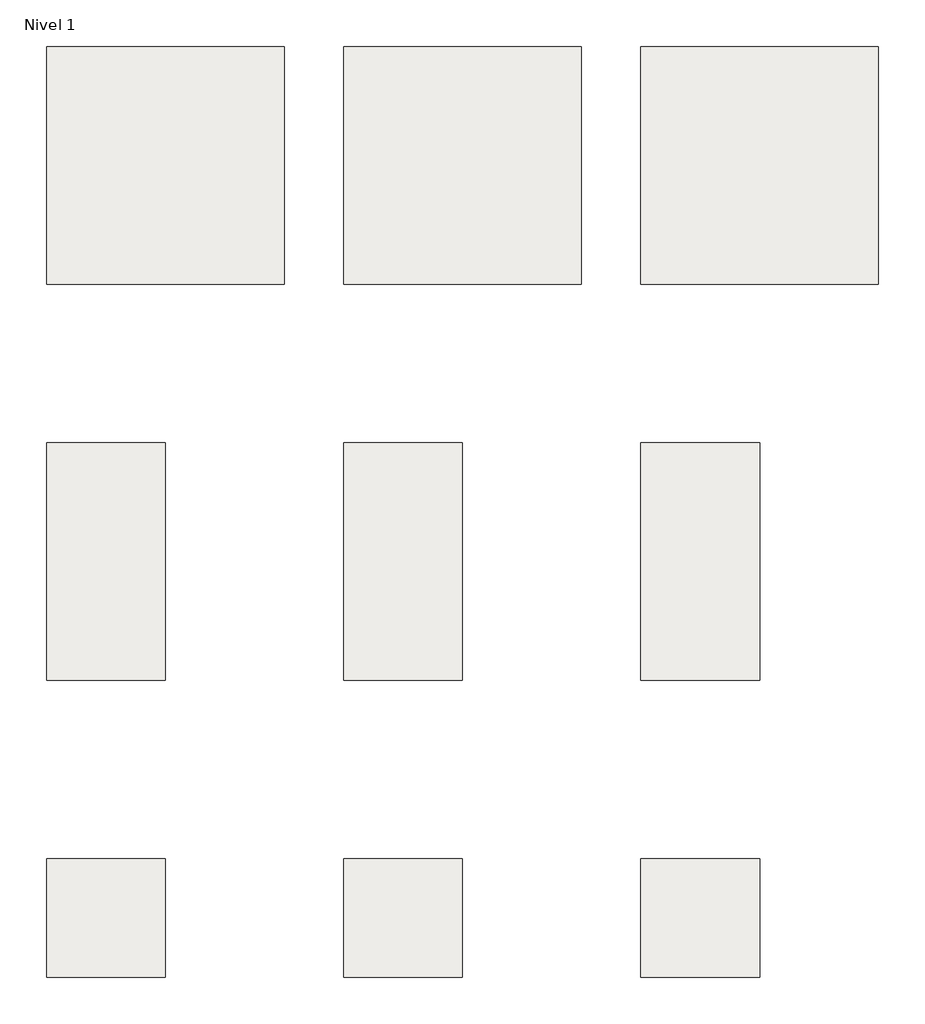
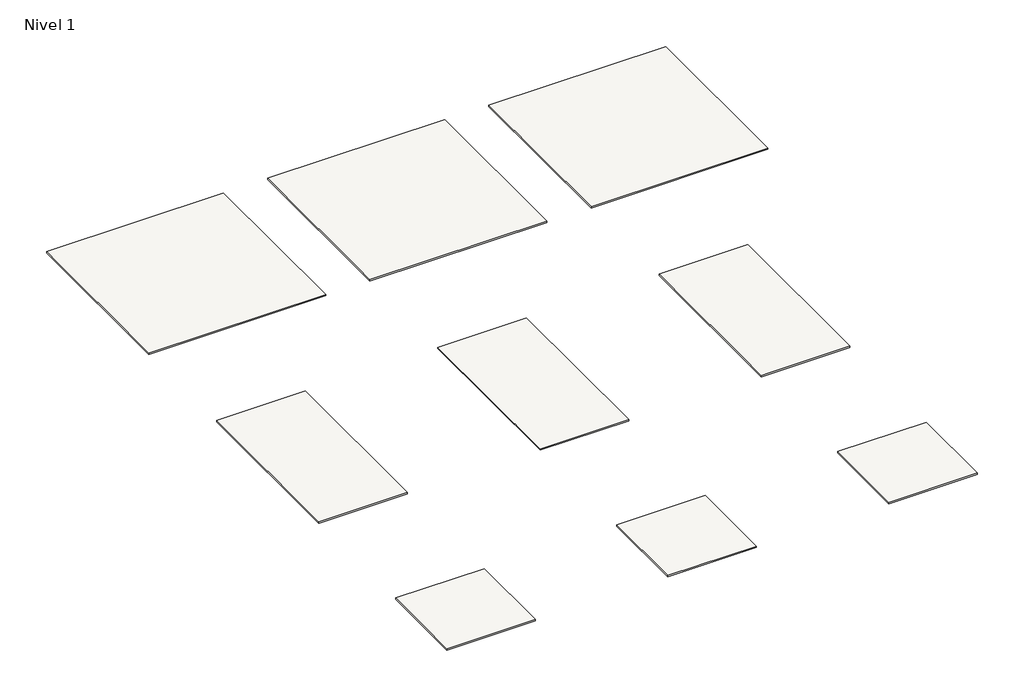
# One storey: 9 slabs.
"""IFC4 building model written with IfcOpenShell, lengths in millimetres."""

from ifc_helpers import new_model, si_unit, frame, origin, place, context, project, spatial, polyline, outline, extrude, element, save

model = new_model("IFC4")

# Units and contexts
model_context = context("Model", 3, world=origin())
ifc_project = project(units=[si_unit("LENGTHUNIT", "METRE", prefix="MILLI")], contexts=[model_context])

# Site, building, storey
site = spatial("IfcSite", under=ifc_project)
building = spatial("IfcBuilding", under=site)
storey = spatial("IfcBuildingStorey", under=building, Name="Nivel 1", Elevation=0.0)

# Slabs
placement = place(None, origin())
element("IfcSlab", 1, ObjectType="Fresco Ocre 120X120 Rec", at=placement, inside=storey, context=model_context, shape_type="SweptSolid", body=[
    extrude(outline(polyline([(0.0, 1200.0), (1200.0, 1200.0), (1200.0, 0.0), (0.0, 0.0), (0.0, 1200.0)])), frame((0.0, 0.0, -10.0), z_axis=(0.0, 0.0, 1.0), x_axis=(1.0, 0.0, 0.0)), (0.0, 0.0, 1.0), 10.0),
])
element("IfcSlab", 2, ObjectType="Fresco Greige 120X120 Rec", at=placement, inside=storey, context=model_context, shape_type="SweptSolid", body=[
    extrude(outline(polyline([(1500.0, 1200.0), (2700.0, 1200.0), (2700.0, 0.0), (1500.0, 0.0), (1500.0, 1200.0)])), frame((0.0, 0.0, -10.0), z_axis=(0.0, 0.0, 1.0), x_axis=(1.0, 0.0, 0.0)), (0.0, 0.0, 1.0), 10.0),
])
element("IfcSlab", 3, ObjectType="Fresco Perla 120X120 Rec", at=placement, inside=storey, context=model_context, shape_type="SweptSolid", body=[
    extrude(outline(polyline([(3000.0, 1200.0), (4200.0, 1200.0), (4200.0, 0.0), (3000.0, 0.0), (3000.0, 1200.0)])), frame((0.0, 0.0, -10.0), z_axis=(0.0, 0.0, 1.0), x_axis=(1.0, 0.0, 0.0)), (0.0, 0.0, 1.0), 10.0),
])
element("IfcSlab", 4, ObjectType="Fresco Ocre 60X120 Rec", at=placement, inside=storey, context=model_context, shape_type="SweptSolid", body=[
    extrude(outline(polyline([(0.0, -800.0), (600.0, -800.0), (600.0, -2000.0), (0.0, -2000.0), (0.0, -800.0)])), frame((0.0, 0.0, -10.0), z_axis=(0.0, 0.0, 1.0), x_axis=(1.0, 0.0, 0.0)), (0.0, 0.0, 1.0), 10.0),
])
element("IfcSlab", 5, ObjectType="Fresco Greige 60X120 Rec", at=placement, inside=storey, context=model_context, shape_type="SweptSolid", body=[
    extrude(outline(polyline([(1500.0, -800.0), (2100.0, -800.0), (2100.0, -2000.0), (1500.0, -2000.0), (1500.0, -800.0)])), frame((0.0, 0.0, -10.0), z_axis=(0.0, 0.0, 1.0), x_axis=(1.0, 0.0, 0.0)), (0.0, 0.0, 1.0), 10.0),
])
element("IfcSlab", 6, ObjectType="Fresco Perla 60X120 Rec", at=placement, inside=storey, context=model_context, shape_type="SweptSolid", body=[
    extrude(outline(polyline([(3000.0, -800.0), (3600.0, -800.0), (3600.0, -2000.0), (3000.0, -2000.0), (3000.0, -800.0)])), frame((0.0, 0.0, -10.0), z_axis=(0.0, 0.0, 1.0), x_axis=(1.0, 0.0, 0.0)), (0.0, 0.0, 1.0), 10.0),
])
element("IfcSlab", 7, ObjectType="Fresco Ocre 60X60 Rec", at=placement, inside=storey, context=model_context, shape_type="SweptSolid", body=[
    extrude(outline(polyline([(0.0, -2900.0), (600.0, -2900.0), (600.0, -3500.0), (0.0, -3500.0), (0.0, -2900.0)])), frame((0.0, 0.0, -10.0), z_axis=(0.0, 0.0, 1.0), x_axis=(1.0, 0.0, 0.0)), (0.0, 0.0, 1.0), 10.0),
])
element("IfcSlab", 8, ObjectType="Fresco Greige 60X60 Rec", at=placement, inside=storey, context=model_context, shape_type="SweptSolid", body=[
    extrude(outline(polyline([(1500.0, -2900.0), (2100.0, -2900.0), (2100.0, -3500.0), (1500.0, -3500.0), (1500.0, -2900.0)])), frame((0.0, 0.0, -10.0), z_axis=(0.0, 0.0, 1.0), x_axis=(1.0, 0.0, 0.0)), (0.0, 0.0, 1.0), 10.0),
])
element("IfcSlab", 9, ObjectType="Fresco Perla 60X60 Rec", at=placement, inside=storey, context=model_context, shape_type="SweptSolid", body=[
    extrude(outline(polyline([(3000.0, -2900.0), (3600.0, -2900.0), (3600.0, -3500.0), (3000.0, -3500.0), (3000.0, -2900.0)])), frame((0.0, 0.0, -10.0), z_axis=(0.0, 0.0, 1.0), x_axis=(1.0, 0.0, 0.0)), (0.0, 0.0, 1.0), 10.0),
])

save(model, "model.ifc")
